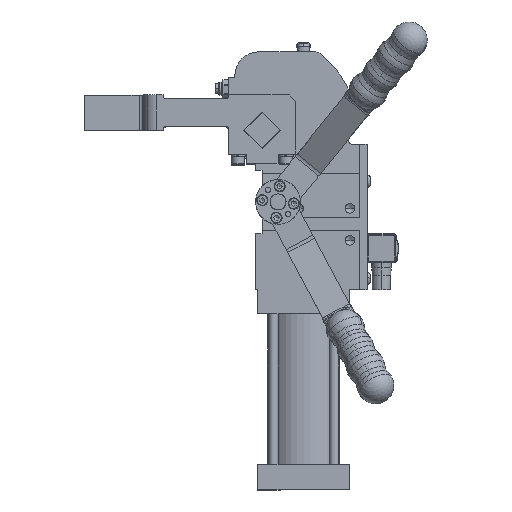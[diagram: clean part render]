
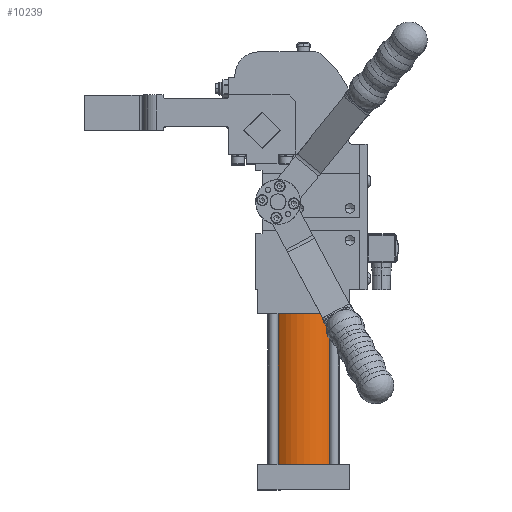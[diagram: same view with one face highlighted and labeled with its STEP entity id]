
A CAD part, top view. The second image highlights one B-rep face of the part: STEP entity #10239.
In plain terms, the highlighted cylindrical face has radius 22.5 mm (diameter 45 mm), a partial arc.
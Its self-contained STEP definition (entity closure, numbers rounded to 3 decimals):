
#550=CARTESIAN_POINT('',(-5.852,-112.104,25.));
#551=VERTEX_POINT('',#550);
#552=CARTESIAN_POINT('',(-5.852,-206.304,25.));
#553=VERTEX_POINT('',#552);
#554=CARTESIAN_POINT('',(-5.852,-112.104,25.));
#555=DIRECTION('',(0.0,-1.0,0.0));
#556=VECTOR('',#555,94.2);
#557=LINE('',#554,#556);
#558=EDGE_CURVE('',#551,#553,#557,.T.);
#560=CARTESIAN_POINT('',(39.148,-112.104,25.0));
#561=VERTEX_POINT('',#560);
#569=CARTESIAN_POINT('',(39.148,-206.304,25.));
#570=VERTEX_POINT('',#569);
#571=CARTESIAN_POINT('',(39.148,-206.304,25.));
#572=DIRECTION('',(0.0,1.0,0.0));
#573=VECTOR('',#572,94.2);
#574=LINE('',#571,#573);
#575=EDGE_CURVE('',#570,#561,#574,.T.);
#9534=CARTESIAN_POINT('',(16.648,-206.304,25.0));
#9535=DIRECTION('',(0.0,1.0,0.0));
#9536=DIRECTION('',(-1.0,0.0,0.0));
#9537=AXIS2_PLACEMENT_3D('',#9534,#9535,#9536);
#9538=CIRCLE('',#9537,22.5);
#9539=EDGE_CURVE('',#553,#570,#9538,.T.);
#10222=CARTESIAN_POINT('',(16.648,-112.104,25.0));
#10223=DIRECTION('',(0.,-1.0,0.));
#10224=DIRECTION('',(-1.0,0.0,0.0));
#10225=AXIS2_PLACEMENT_3D('',#10222,#10223,#10224);
#10226=CYLINDRICAL_SURFACE('',#10225,22.5);
#10227=ORIENTED_EDGE('',*,*,#558,.T.);
#10228=ORIENTED_EDGE('',*,*,#9539,.T.);
#10229=ORIENTED_EDGE('',*,*,#575,.T.);
#10230=CARTESIAN_POINT('',(16.648,-112.104,25.0));
#10231=DIRECTION('',(0.0,1.0,0.0));
#10232=DIRECTION('',(-1.0,0.0,0.0));
#10233=AXIS2_PLACEMENT_3D('',#10230,#10231,#10232);
#10234=CIRCLE('',#10233,22.5);
#10235=EDGE_CURVE('',#551,#561,#10234,.T.);
#10236=ORIENTED_EDGE('',*,*,#10235,.F.);
#10237=EDGE_LOOP('',(#10227,#10228,#10229,#10236));
#10238=FACE_OUTER_BOUND('',#10237,.T.);
#10239=ADVANCED_FACE('',(#10238),#10226,.T.);
